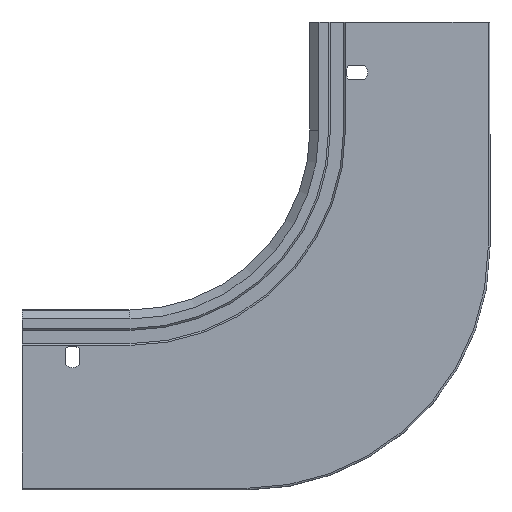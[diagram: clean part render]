
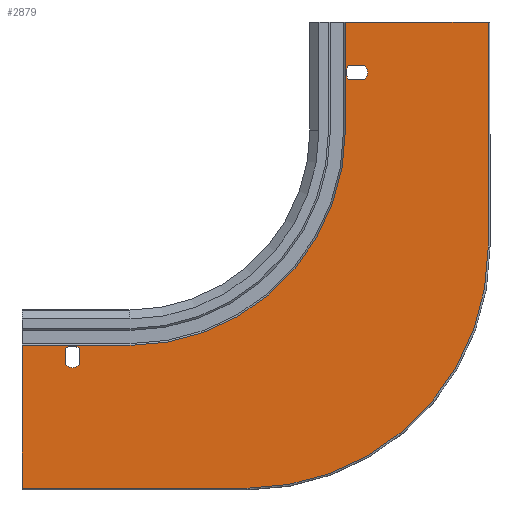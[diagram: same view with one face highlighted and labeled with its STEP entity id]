
A CAD part, left-side view. The second image highlights one B-rep face of the part: STEP entity #2879.
In plain terms, the highlighted planar face has unit normal (-1, 0, 0) as drawn and (0, -1, 0) by its records, which use the part's own axes.
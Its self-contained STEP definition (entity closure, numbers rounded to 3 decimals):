
#33 = LINE ( 'NONE', #2135, #3467 ) ;
#71 = CARTESIAN_POINT ( 'NONE',  ( 236., 0., -181.528 ) ) ;
#76 = CARTESIAN_POINT ( 'NONE',  ( 1., 0., -125. ) ) ;
#125 = CARTESIAN_POINT ( 'NONE',  ( 232., 0., -186. ) ) ;
#134 = VECTOR ( 'NONE', #3353, 1000. ) ;
#166 = DIRECTION ( 'NONE',  ( 0., 1., 0. ) ) ;
#170 = ORIENTED_EDGE ( 'NONE', *, *, #840, .F. ) ;
#203 = LINE ( 'NONE', #3089, #671 ) ;
#278 = CARTESIAN_POINT ( 'NONE',  ( 0., 0., 0. ) ) ;
#307 = PLANE ( 'NONE',  #1282 ) ;
#322 = CARTESIAN_POINT ( 'NONE',  ( 1., 0., -125. ) ) ;
#440 = VERTEX_POINT ( 'NONE', #637 ) ;
#458 = CARTESIAN_POINT ( 'NONE',  ( 69.528, 0., -32. ) ) ;
#469 = CARTESIAN_POINT ( 'NONE',  ( 80.331, 0., -60. ) ) ;
#551 = CARTESIAN_POINT ( 'NONE',  ( 69.528, 0., -24. ) ) ;
#581 = VERTEX_POINT ( 'NONE', #1143 ) ;
#629 = DIRECTION ( 'NONE',  ( -1., 0., 0. ) ) ;
#637 = CARTESIAN_POINT ( 'NONE',  ( 228., 0., -181.528 ) ) ;
#671 = VECTOR ( 'NONE', #2228, 1000. ) ;
#731 = EDGE_CURVE ( 'NONE', #2474, #5367, #5120, .T. ) ;
#764 = EDGE_CURVE ( 'NONE', #1707, #5260, #2325, .T. ) ;
#790 = DIRECTION ( 'NONE',  ( 0., -1., 0. ) ) ;
#840 = EDGE_CURVE ( 'NONE', #5359, #5059, #2634, .T. ) ;
#848 = CIRCLE ( 'NONE', #3906, 6. ) ;
#857 = DIRECTION ( 'NONE',  ( 0., -1., 0. ) ) ;
#943 = DIRECTION ( 'NONE',  ( 0., 0., 1. ) ) ;
#948 = ORIENTED_EDGE ( 'NONE', *, *, #3102, .F. ) ;
#954 = AXIS2_PLACEMENT_3D ( 'NONE', #3498, #2575, #1455 ) ;
#960 = EDGE_LOOP ( 'NONE', ( #2252, #1792, #3247, #982, #2910 ) ) ;
#982 = ORIENTED_EDGE ( 'NONE', *, *, #764, .F. ) ;
#994 = DIRECTION ( 'NONE',  ( 0., -1., 0. ) ) ;
#1002 = CARTESIAN_POINT ( 'NONE',  ( 236., 0., 0. ) ) ;
#1030 = ORIENTED_EDGE ( 'NONE', *, *, #3352, .F. ) ;
#1114 = CIRCLE ( 'NONE', #2607, 6. ) ;
#1143 = CARTESIAN_POINT ( 'NONE',  ( 1., 0., 0. ) ) ;
#1149 = DIRECTION ( 'NONE',  ( 0., 0., -1. ) ) ;
#1200 = EDGE_CURVE ( 'NONE', #1967, #5375, #4667, .T. ) ;
#1203 = VECTOR ( 'NONE', #4524, 1000. ) ;
#1224 = LINE ( 'NONE', #322, #134 ) ;
#1263 = DIRECTION ( 'NONE',  ( -1., 0., 0. ) ) ;
#1282 = AXIS2_PLACEMENT_3D ( 'NONE', #278, #3666, #1149 ) ;
#1343 = CARTESIAN_POINT ( 'NONE',  ( 0., 0., -32. ) ) ;
#1381 = EDGE_LOOP ( 'NONE', ( #1565, #170, #4527, #1617 ) ) ;
#1401 = CARTESIAN_POINT ( 'NONE',  ( 232., 0., -186. ) ) ;
#1435 = DIRECTION ( 'NONE',  ( 0., 0., 1. ) ) ;
#1455 = DIRECTION ( 'NONE',  ( 0., 0., -1. ) ) ;
#1562 = EDGE_CURVE ( 'NONE', #2480, #581, #1224, .T. ) ;
#1565 = ORIENTED_EDGE ( 'NONE', *, *, #2808, .F. ) ;
#1617 = ORIENTED_EDGE ( 'NONE', *, *, #731, .F. ) ;
#1636 = EDGE_CURVE ( 'NONE', #2449, #2995, #2875, .T. ) ;
#1707 = VERTEX_POINT ( 'NONE', #71 ) ;
#1777 = VERTEX_POINT ( 'NONE', #5144 ) ;
#1792 = ORIENTED_EDGE ( 'NONE', *, *, #2744, .F. ) ;
#1795 = ORIENTED_EDGE ( 'NONE', *, *, #3463, .F. ) ;
#1828 = CARTESIAN_POINT ( 'NONE',  ( 80.331, 0., 0. ) ) ;
#1916 = CIRCLE ( 'NONE', #954, 119.669 ) ;
#1967 = VERTEX_POINT ( 'NONE', #2817 ) ;
#1993 = FACE_BOUND ( 'NONE', #960, .T. ) ;
#2000 = DIRECTION ( 'NONE',  ( 0., 0., -1. ) ) ;
#2033 = DIRECTION ( 'NONE',  ( 0., 0., 1. ) ) ;
#2042 = EDGE_CURVE ( 'NONE', #5367, #5359, #848, .T. ) ;
#2055 = CARTESIAN_POINT ( 'NONE',  ( 74., 0., -28. ) ) ;
#2123 = DIRECTION ( 'NONE',  ( 0., 0., -1. ) ) ;
#2135 = CARTESIAN_POINT ( 'NONE',  ( 200., 0., -179.669 ) ) ;
#2228 = DIRECTION ( 'NONE',  ( 0., 0., -1. ) ) ;
#2252 = ORIENTED_EDGE ( 'NONE', *, *, #4243, .F. ) ;
#2325 = CIRCLE ( 'NONE', #4230, 6. ) ;
#2397 = VECTOR ( 'NONE', #629, 1000. ) ;
#2401 = VECTOR ( 'NONE', #1263, 1000. ) ;
#2443 = CARTESIAN_POINT ( 'NONE',  ( 80.331, 0., -60. ) ) ;
#2449 = VERTEX_POINT ( 'NONE', #469 ) ;
#2474 = VERTEX_POINT ( 'NONE', #458 ) ;
#2480 = VERTEX_POINT ( 'NONE', #76 ) ;
#2575 = DIRECTION ( 'NONE',  ( 0., -1., 0. ) ) ;
#2607 = AXIS2_PLACEMENT_3D ( 'NONE', #4755, #994, #2657 ) ;
#2618 = DIRECTION ( 'NONE',  ( 1., 0., 0. ) ) ;
#2634 = LINE ( 'NONE', #3077, #2397 ) ;
#2645 = DIRECTION ( 'NONE',  ( 0., -1., 0. ) ) ;
#2657 = DIRECTION ( 'NONE',  ( 0., 0., -1. ) ) ;
#2744 = EDGE_CURVE ( 'NONE', #440, #1777, #203, .T. ) ;
#2746 = VECTOR ( 'NONE', #3020, 1000. ) ;
#2808 = EDGE_CURVE ( 'NONE', #5059, #2474, #3371, .T. ) ;
#2817 = CARTESIAN_POINT ( 'NONE',  ( 260., 0., -259. ) ) ;
#2875 = LINE ( 'NONE', #2443, #3902 ) ;
#2879 = ADVANCED_FACE ( 'NONE', ( #3180, #1993, #4874 ), #307, .T. ) ;
#2902 = ORIENTED_EDGE ( 'NONE', *, *, #5399, .F. ) ;
#2910 = ORIENTED_EDGE ( 'NONE', *, *, #2978, .F. ) ;
#2936 = CARTESIAN_POINT ( 'NONE',  ( 260., 0., -260. ) ) ;
#2954 = ORIENTED_EDGE ( 'NONE', *, *, #1636, .T. ) ;
#2978 = EDGE_CURVE ( 'NONE', #3754, #1707, #5039, .T. ) ;
#2995 = VERTEX_POINT ( 'NONE', #1828 ) ;
#3020 = DIRECTION ( 'NONE',  ( 1., 0., 0. ) ) ;
#3032 = VERTEX_POINT ( 'NONE', #3275 ) ;
#3077 = CARTESIAN_POINT ( 'NONE',  ( 0., 0., -24. ) ) ;
#3089 = CARTESIAN_POINT ( 'NONE',  ( 228., 0., 0. ) ) ;
#3102 = EDGE_CURVE ( 'NONE', #5375, #2480, #3917, .T. ) ;
#3149 = DIRECTION ( 'NONE',  ( 0., 0., -1. ) ) ;
#3180 = FACE_BOUND ( 'NONE', #1381, .T. ) ;
#3247 = ORIENTED_EDGE ( 'NONE', *, *, #5148, .F. ) ;
#3275 = CARTESIAN_POINT ( 'NONE',  ( 200., 0., -179.669 ) ) ;
#3352 = EDGE_CURVE ( 'NONE', #5185, #1967, #5063, .T. ) ;
#3353 = DIRECTION ( 'NONE',  ( 0., 0., 1. ) ) ;
#3371 = CIRCLE ( 'NONE', #3631, 6. ) ;
#3412 = CARTESIAN_POINT ( 'NONE',  ( 260., 0., -259. ) ) ;
#3417 = EDGE_LOOP ( 'NONE', ( #3734, #948, #3613, #1030, #4037, #1795, #2954, #2902 ) ) ;
#3463 = EDGE_CURVE ( 'NONE', #2449, #3032, #1916, .T. ) ;
#3467 = VECTOR ( 'NONE', #2618, 1000. ) ;
#3481 = AXIS2_PLACEMENT_3D ( 'NONE', #125, #857, #2123 ) ;
#3498 = CARTESIAN_POINT ( 'NONE',  ( 200., 0., -60. ) ) ;
#3522 = DIRECTION ( 'NONE',  ( 0., -1., 0. ) ) ;
#3582 = CARTESIAN_POINT ( 'NONE',  ( 80., 0., 0. ) ) ;
#3613 = ORIENTED_EDGE ( 'NONE', *, *, #1200, .F. ) ;
#3631 = AXIS2_PLACEMENT_3D ( 'NONE', #5163, #2645, #3905 ) ;
#3666 = DIRECTION ( 'NONE',  ( 0., -1., 0. ) ) ;
#3734 = ORIENTED_EDGE ( 'NONE', *, *, #1562, .F. ) ;
#3754 = VERTEX_POINT ( 'NONE', #3785 ) ;
#3774 = EDGE_CURVE ( 'NONE', #3032, #5185, #33, .T. ) ;
#3785 = CARTESIAN_POINT ( 'NONE',  ( 236., 0., -190.472 ) ) ;
#3902 = VECTOR ( 'NONE', #2033, 1000. ) ;
#3905 = DIRECTION ( 'NONE',  ( 0., 0., -1. ) ) ;
#3906 = AXIS2_PLACEMENT_3D ( 'NONE', #2055, #790, #2000 ) ;
#3917 = CIRCLE ( 'NONE', #4263, 134. ) ;
#4000 = VECTOR ( 'NONE', #1435, 1000. ) ;
#4037 = ORIENTED_EDGE ( 'NONE', *, *, #3774, .F. ) ;
#4082 = CARTESIAN_POINT ( 'NONE',  ( 78.472, 0., -32. ) ) ;
#4114 = DIRECTION ( 'NONE',  ( 0., 0., -1. ) ) ;
#4191 = CIRCLE ( 'NONE', #3481, 6. ) ;
#4230 = AXIS2_PLACEMENT_3D ( 'NONE', #1401, #3522, #3149 ) ;
#4243 = EDGE_CURVE ( 'NONE', #1777, #3754, #1114, .T. ) ;
#4247 = CARTESIAN_POINT ( 'NONE',  ( 135., 0., -125. ) ) ;
#4263 = AXIS2_PLACEMENT_3D ( 'NONE', #4247, #166, #943 ) ;
#4449 = CARTESIAN_POINT ( 'NONE',  ( 135., 0., -259. ) ) ;
#4524 = DIRECTION ( 'NONE',  ( 1., 0., 0. ) ) ;
#4527 = ORIENTED_EDGE ( 'NONE', *, *, #2042, .F. ) ;
#4564 = CARTESIAN_POINT ( 'NONE',  ( 232., 0., -180. ) ) ;
#4667 = LINE ( 'NONE', #3412, #2401 ) ;
#4755 = CARTESIAN_POINT ( 'NONE',  ( 232., 0., -186. ) ) ;
#4806 = VECTOR ( 'NONE', #4114, 1000. ) ;
#4874 = FACE_OUTER_BOUND ( 'NONE', #3417, .T. ) ;
#4923 = CARTESIAN_POINT ( 'NONE',  ( 78.472, 0., -24. ) ) ;
#5039 = LINE ( 'NONE', #1002, #4000 ) ;
#5059 = VERTEX_POINT ( 'NONE', #551 ) ;
#5063 = LINE ( 'NONE', #2936, #4806 ) ;
#5120 = LINE ( 'NONE', #1343, #2746 ) ;
#5144 = CARTESIAN_POINT ( 'NONE',  ( 228., 0., -190.472 ) ) ;
#5148 = EDGE_CURVE ( 'NONE', #5260, #440, #4191, .T. ) ;
#5163 = CARTESIAN_POINT ( 'NONE',  ( 74., 0., -28. ) ) ;
#5185 = VERTEX_POINT ( 'NONE', #5345 ) ;
#5260 = VERTEX_POINT ( 'NONE', #4564 ) ;
#5345 = CARTESIAN_POINT ( 'NONE',  ( 260., 0., -179.669 ) ) ;
#5358 = LINE ( 'NONE', #3582, #1203 ) ;
#5359 = VERTEX_POINT ( 'NONE', #4923 ) ;
#5367 = VERTEX_POINT ( 'NONE', #4082 ) ;
#5375 = VERTEX_POINT ( 'NONE', #4449 ) ;
#5399 = EDGE_CURVE ( 'NONE', #581, #2995, #5358, .T. ) ;
